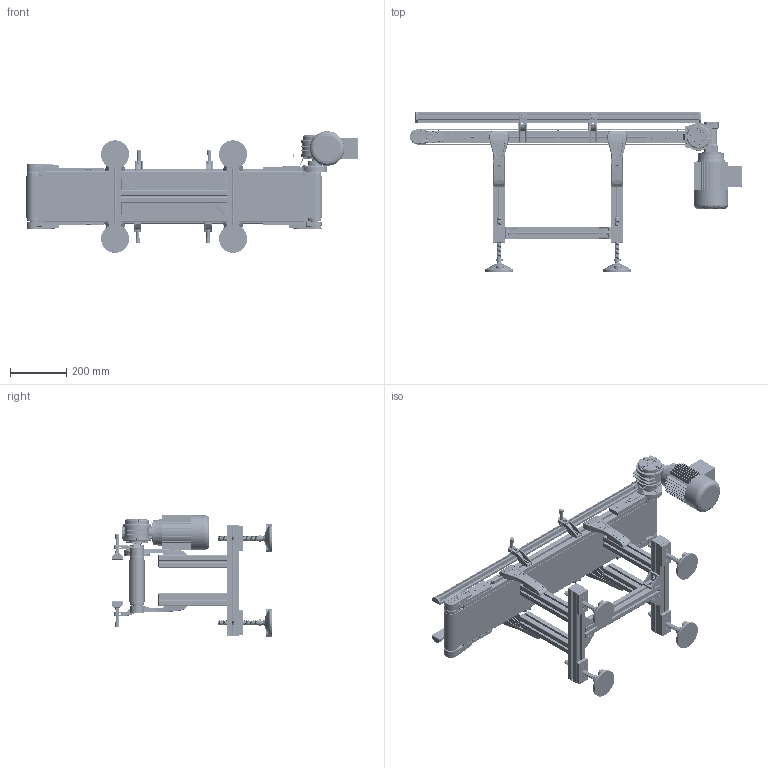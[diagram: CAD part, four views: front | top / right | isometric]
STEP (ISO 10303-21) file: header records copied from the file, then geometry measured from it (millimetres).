
FILE_DESCRIPTION (( 'STEP AP203' ), '1' );
FILE_NAME ('NASTRO_RETTILINEO_TAPPETO.step', '2026-05-04T11:41:02', ( 'Utente Windows' ), ( '' ), 'SwSTEP 2.0', 'SolidWorks 2024', '' );
FILE_SCHEMA (( 'CONFIG_CONTROL_DESIGN' ));
Length unit declared in the file: millimetre
Products named in the file (71): 084.302.000 DADI ALUSIC 13x13-1_084.302.009; 084.802.017_084.802.017; RULLO_50_Default<A macchina>; BLOCCO_PERNO_50_44; SPONDA_Default<A macchina>; BLOCCO_TRAINO_50_STANDARD_44_DX; 084.201.012-1; 084.405.001; 084.711.006_L2; VITI TE UNI 5739_M6x12 UNI 5739; ANGOLARE_43; VITI TSEI UNI 5933_M4x10 UNI 5933; 084.305.003-1; VITI TCEI UNI 5931_M4x25 UNI 5931; FLANGIA_GAMBA_50; 084.802.008; PIEDE; CH04P_DX; 084.712.002; LAMIERA_STANDARD; 084.803.018; 084.802.071; 084.802.062; VITI TSEI UNI 5933_M5x12 UNI 5933; TELAIO_50_STANDARD_Default<A macchina>; CHIAVETTE_A 6x6x60 UNI 6604-69; 084.811.004; TAPPETO_STANDARD; 084.301.000 VITI ALUSIC1_084.301.003; VITI TCEI UNI 5931_M6x12 UNI 5931; GAMBE_D50_Default<A macchina>; 084.711.006_PER CAVA 8 PERNO ALTO 1; VITE_DADO_M5X12; 084.810.001; RONDELLE FASCIA LARGA UNI 6593_6.4x24 UNI 6593; 084.802.034_084.802.034; 084.807.002_084.807.002; BLOCCO_BRACCIO_CH04P_V2_VF44P V2; VITI TSEI UNI 5933 INOX_0412UNI5933A2; NASTRO_RETTILINEO_TAPPETO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
Assembly tree (160 placements, depth 4):
  NASTRO_RETTILINEO_TAPPETO
    TAPPETO_STANDARD
    TELAIO_50_STANDARD_Default<A macchina>
    LAMIERA_STANDARD
    RULLO_50_Default<A macchina>  x2
    BLOCCO_PERNO_50_44
      084.810.001
      084.811.002
      RONDELLE FASCIA LARGA UNI 6593_6.4x24 UNI 6593
      VITI TE UNI 5739_M6x12 UNI 5739
      CHIAVETTE_A 5x5x20 UNI 6604-69
      CHIAVETTE_A 6x6x60 UNI 6604-69
    BLOCCO_TRAINO_50_STANDARD_44_DX
      084.807.001_084.807.001
      084.802.034_084.802.034
      084.301.000 VITI ALUSIC_084.301.003  x2
      084.302.000 DADI ALUSIC 13x13-1_084.302.004  x2
      BLOCCO_BRACCIO_CH04P_V2_VF44P V2
        084.808.012
        084.802.062
        084.803.018
        VITI TCEI UNI 5931_M6x12 UNI 5931  x4
        VITI TE UNI 5739_M6x16 UNI 5739  x4
        084.802.060_Default<A macchina>
      084.802.065_Default<A macchina>
      VITI TCEI UNI 5931_M4x25 UNI 5931  x2
    BLOCCO_PERNO_50_RINVIO  x3
      084.811.004
      084.810.001
    BLOCCO_TRAINO_50_STANDARD
      084.807.002_084.807.002
      084.802.017_084.802.017
      084.301.000 VITI ALUSIC_084.301.003  x2
      084.302.000 DADI ALUSIC 13x13-1_084.302.004  x2
      VITI TSEI UNI 5933_M4x12 UNI 5933  x4
      084.802.071
      VITI TSEI UNI 5933 INOX_0412UNI5933A2  x2
    BLOCCO_RINVIO_50_STANDARD  x2
      084.807.002_084.807.002
      084.802.017_084.802.017
      084.802.008
      084.301.000 VITI ALUSIC_084.301.003
      084.302.000 DADI ALUSIC 13x13_084.302.004
      VITI TSEI UNI 5933_M4x10 UNI 5933
      084.802.071
    SPONDA_Default<A macchina>  x2
    084.711.006_PER CAVA 8 PERNO ALTO 1  x4
      084.711.006_L1
      084.711.006_L2
      084.711.007
      084.711.005
      084.711.010
      DADI ESAGONALI NORMALI UNI 5588_M6 UNI 5588
    084.712.002  x4
    GAMBE_D50_Default<A macchina>  x2
    FLANGIA_GAMBA_50
      084.302.000 DADI ALUSIC 13x13-1_084.302.004  x4
      RONDELLE UNI 6592_8.4x17 UNI 6592  x3
      084.301.000 VITI ALUSIC_084.301.003  x4
      2010.000.068
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Bounding box: 1181.6 x 572.1 x 432.44 mm (x, y, z)
Volume: 9386049.4 mm3; surface area: 5238793.2 mm2
Topology: 275 solids, 284 shells, 15674 faces, 40722 edges, 25831 vertices
Faces by surface type: plane 6299, cylinder 4980, bspline 1782, cone 1360, torus 1089, sphere 164
Entity records: 246554 total; most frequent: CARTESIAN_POINT 86531, ORIENTED_EDGE 33084, DIRECTION 29511, EDGE_CURVE 16542, VERTEX_POINT 10601, AXIS2_PLACEMENT_3D 10351, VECTOR 8809, LINE 8809
